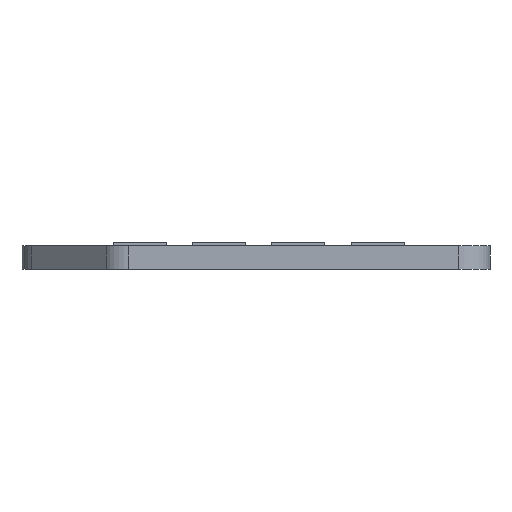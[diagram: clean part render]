
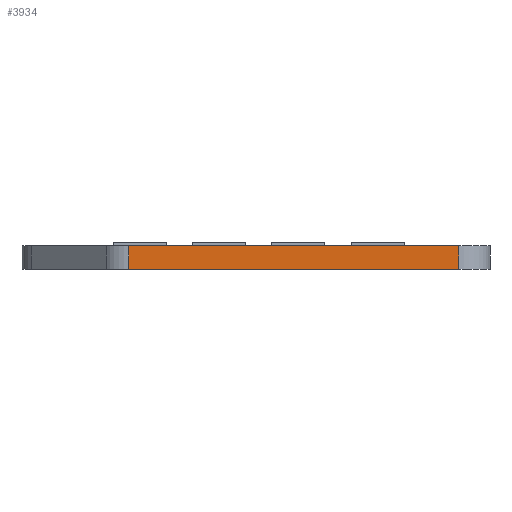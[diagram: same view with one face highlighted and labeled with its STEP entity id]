
A CAD part, front view. The second image highlights one B-rep face of the part: STEP entity #3934.
In plain terms, the highlighted planar face has unit normal (0, -1, 0).
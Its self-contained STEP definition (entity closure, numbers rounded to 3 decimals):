
#475=DIRECTION('',(0.,0.,1.));
#476=VECTOR('',#475,0.76);
#477=CARTESIAN_POINT('',(6.5,-12.5,0.));
#478=LINE('',#477,#476);
#479=DIRECTION('',(-1.,0.,0.));
#480=VECTOR('',#479,10.586);
#481=CARTESIAN_POINT('',(6.5,-12.5,0.));
#482=LINE('',#481,#480);
#483=DIRECTION('',(0.,0.,-1.));
#484=VECTOR('',#483,0.76);
#485=CARTESIAN_POINT('',(-4.086,-12.5,0.76));
#486=LINE('',#485,#484);
#527=DIRECTION('',(-1.,0.,0.));
#528=VECTOR('',#527,10.586);
#529=CARTESIAN_POINT('',(6.5,-12.5,0.76));
#530=LINE('',#529,#528);
#2608=CARTESIAN_POINT('',(-4.086,-12.5,0.));
#2609=VERTEX_POINT('',#2608);
#2610=CARTESIAN_POINT('',(6.5,-12.5,0.));
#2611=VERTEX_POINT('',#2610);
#2988=CARTESIAN_POINT('',(6.5,-12.5,0.76));
#2989=VERTEX_POINT('',#2988);
#2990=CARTESIAN_POINT('',(-4.086,-12.5,0.76));
#2991=VERTEX_POINT('',#2990);
#3921=CARTESIAN_POINT('',(-7.5,-12.5,0.));
#3922=DIRECTION('',(0.,-1.,0.));
#3923=DIRECTION('',(1.,0.,0.));
#3924=AXIS2_PLACEMENT_3D('',#3921,#3922,#3923);
#3925=PLANE('',#3924);
#3927=ORIENTED_EDGE('',*,*,#3926,.F.);
#3929=ORIENTED_EDGE('',*,*,#3928,.F.);
#3930=ORIENTED_EDGE('',*,*,#3914,.F.);
#3931=ORIENTED_EDGE('',*,*,#3477,.T.);
#3932=EDGE_LOOP('',(#3927,#3929,#3930,#3931));
#3933=FACE_OUTER_BOUND('',#3932,.F.);
#3934=ADVANCED_FACE('',(#3933),#3925,.T.);
#3477=EDGE_CURVE('',#2611,#2609,#482,.T.);
#3914=EDGE_CURVE('',#2611,#2989,#478,.T.);
#3926=EDGE_CURVE('',#2991,#2609,#486,.T.);
#3928=EDGE_CURVE('',#2989,#2991,#530,.T.);
